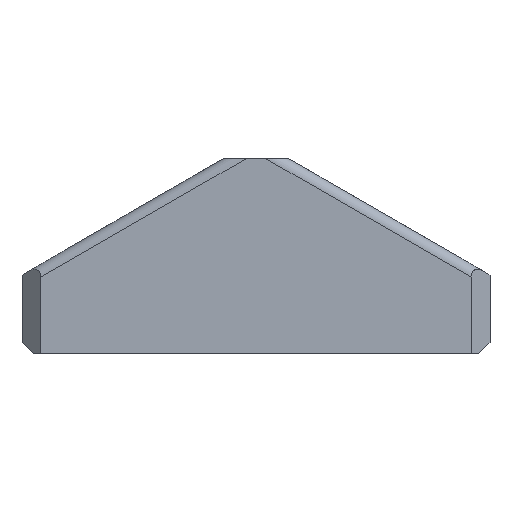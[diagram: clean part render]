
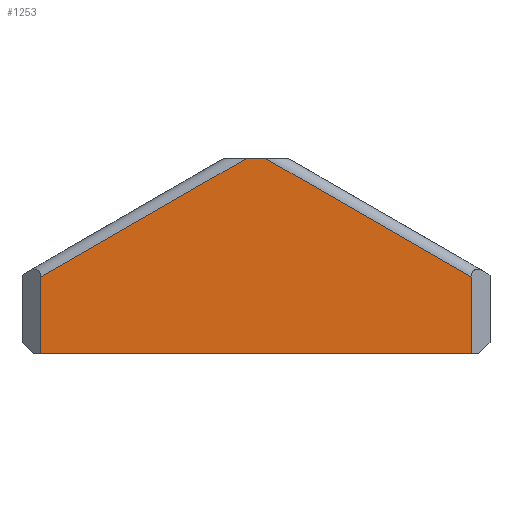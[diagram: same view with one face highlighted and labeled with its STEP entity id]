
A CAD part, front view. The second image highlights one B-rep face of the part: STEP entity #1253.
In plain terms, the highlighted planar face has unit normal (0, -1, 0).
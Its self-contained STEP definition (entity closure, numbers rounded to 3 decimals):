
#137 = ORIENTED_EDGE ( 'NONE', *, *, #2867, .F. ) ;
#150 = VERTEX_POINT ( 'NONE', #1052 ) ;
#232 = DIRECTION ( 'NONE',  ( -0.866, 0., -0.5 ) ) ;
#314 = LINE ( 'NONE', #5556, #1565 ) ;
#338 = CARTESIAN_POINT ( 'NONE',  ( -59.541, -89.933, 10.169 ) ) ;
#367 = DIRECTION ( 'NONE',  ( 0.866, 0., -0.5 ) ) ;
#617 = VERTEX_POINT ( 'NONE', #3644 ) ;
#697 = ORIENTED_EDGE ( 'NONE', *, *, #1651, .T. ) ;
#719 = DIRECTION ( 'NONE',  ( 0., 0., 1. ) ) ;
#730 = EDGE_LOOP ( 'NONE', ( #4280, #4836, #4590, #697, #5291, #137 ) ) ;
#874 = VERTEX_POINT ( 'NONE', #4741 ) ;
#893 = LINE ( 'NONE', #5161, #5835 ) ;
#1047 = CARTESIAN_POINT ( 'NONE',  ( -174.541, -89.933, 20.338 ) ) ;
#1052 = CARTESIAN_POINT ( 'NONE',  ( -59.541, -89.933, 0. ) ) ;
#1081 = VECTOR ( 'NONE', #4536, 1000. ) ;
#1144 = EDGE_CURVE ( 'NONE', #874, #150, #314, .T. ) ;
#1253 = ADVANCED_FACE ( 'NONE', ( #4797 ), #2647, .F. ) ;
#1426 = EDGE_CURVE ( 'NONE', #3203, #874, #1561, .T. ) ;
#1561 = LINE ( 'NONE', #2390, #1698 ) ;
#1565 = VECTOR ( 'NONE', #5573, 1000. ) ;
#1651 = EDGE_CURVE ( 'NONE', #150, #4798, #2149, .T. ) ;
#1657 = CARTESIAN_POINT ( 'NONE',  ( -117.041, -89.933, 52. ) ) ;
#1698 = VECTOR ( 'NONE', #5102, 1000. ) ;
#1944 = VECTOR ( 'NONE', #232, 1000. ) ;
#2079 = CARTESIAN_POINT ( 'NONE',  ( -147.122, -89.933, 36.169 ) ) ;
#2149 = LINE ( 'NONE', #338, #6129 ) ;
#2336 = LINE ( 'NONE', #1657, #1081 ) ;
#2390 = CARTESIAN_POINT ( 'NONE',  ( -174.541, -89.933, 10.169 ) ) ;
#2647 = PLANE ( 'NONE',  #6127 ) ;
#2867 = EDGE_CURVE ( 'NONE', #4273, #617, #2336, .T. ) ;
#3203 = VERTEX_POINT ( 'NONE', #1047 ) ;
#3317 = CARTESIAN_POINT ( 'NONE',  ( -119.702, -89.933, 52. ) ) ;
#3485 = EDGE_CURVE ( 'NONE', #617, #4798, #893, .T. ) ;
#3506 = DIRECTION ( 'NONE',  ( 1., 0., 0. ) ) ;
#3644 = CARTESIAN_POINT ( 'NONE',  ( -114.381, -89.933, 52. ) ) ;
#3887 = CARTESIAN_POINT ( 'NONE',  ( -59.541, -89.933, 20.338 ) ) ;
#4273 = VERTEX_POINT ( 'NONE', #3317 ) ;
#4280 = ORIENTED_EDGE ( 'NONE', *, *, #5547, .T. ) ;
#4515 = LINE ( 'NONE', #2079, #1944 ) ;
#4536 = DIRECTION ( 'NONE',  ( 1., 0., 0. ) ) ;
#4590 = ORIENTED_EDGE ( 'NONE', *, *, #1144, .T. ) ;
#4741 = CARTESIAN_POINT ( 'NONE',  ( -174.541, -89.933, 0. ) ) ;
#4797 = FACE_OUTER_BOUND ( 'NONE', #730, .T. ) ;
#4798 = VERTEX_POINT ( 'NONE', #3887 ) ;
#4836 = ORIENTED_EDGE ( 'NONE', *, *, #1426, .T. ) ;
#5102 = DIRECTION ( 'NONE',  ( 0., 0., -1. ) ) ;
#5161 = CARTESIAN_POINT ( 'NONE',  ( -86.961, -89.933, 36.169 ) ) ;
#5291 = ORIENTED_EDGE ( 'NONE', *, *, #3485, .F. ) ;
#5407 = DIRECTION ( 'NONE',  ( 0., 1., 0. ) ) ;
#5430 = CARTESIAN_POINT ( 'NONE',  ( -179.541, -89.933, 57. ) ) ;
#5547 = EDGE_CURVE ( 'NONE', #4273, #3203, #4515, .T. ) ;
#5556 = CARTESIAN_POINT ( 'NONE',  ( -117.041, -89.933, 0. ) ) ;
#5573 = DIRECTION ( 'NONE',  ( 1., 0., 0. ) ) ;
#5835 = VECTOR ( 'NONE', #367, 1000. ) ;
#6127 = AXIS2_PLACEMENT_3D ( 'NONE', #5430, #5407, #3506 ) ;
#6129 = VECTOR ( 'NONE', #719, 1000. ) ;
